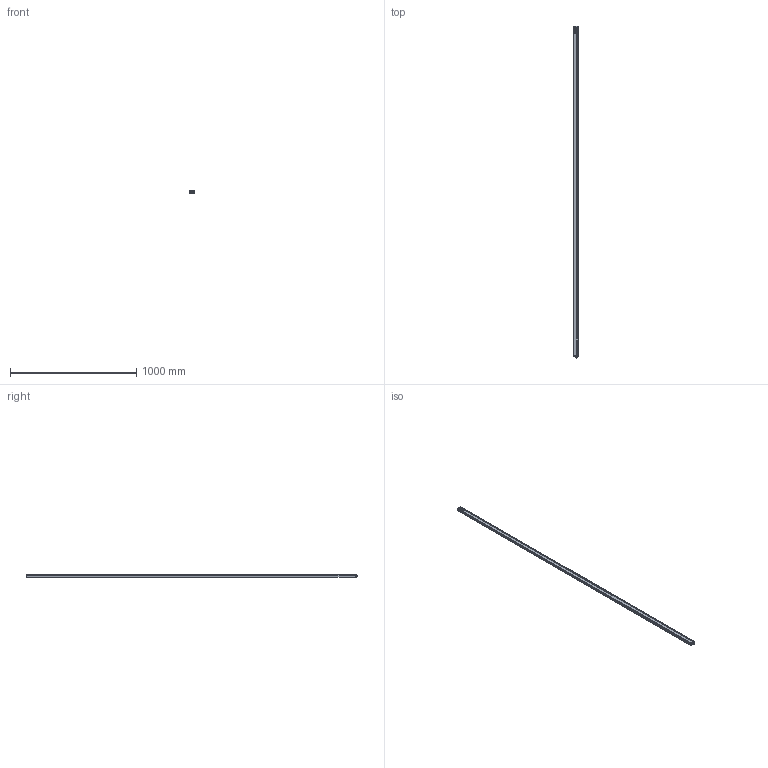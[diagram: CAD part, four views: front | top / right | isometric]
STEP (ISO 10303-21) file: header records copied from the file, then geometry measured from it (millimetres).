
FILE_DESCRIPTION(/* description */ (''),/* implementation_level */ '2;1');
FILE_NAME(/* name */ 'C:\Users\andre\SynologyDrive\Optoscan\Libreria Componenti\00 - Barriere\Polaris sorgente\Barriera Polaris RX\Polaris_2600_RX.stp',/* time_stamp */ '2021-06-04T12:12:10+02:00',/* author */ ('andre'),/* organization */ (''),/* preprocessor_version */ 'ST-DEVELOPER v18',/* originating_system */ 'Autodesk Inventor 2020',/* authorisation */ '');
FILE_SCHEMA (('AUTOMOTIVE_DESIGN { 1 0 10303 214 3 1 1 }'));
Length unit declared in the file: millimetre
Products named in the file (1): Polaris_2600_RX
Bounding box: 40.5 x 2625.3 x 20.75 mm (x, y, z)
Volume: 515679.2 mm3; surface area: 686015.2 mm2
Topology: 1 solids, 1 shells, 700 faces, 1926 edges, 1237 vertices
Faces by surface type: plane 319, cylinder 199, bspline 94, torus 70, sphere 10, cone 8
Full cylindrical faces by diameter (mm): 1 x8, 2.459 x4, 2.5 x4, 3 x4, 3.5 x4, 5.5 x4, 8 x1, 10.5 x2, 11.75 x9, 15.7 x1, 17.5 x1
Entity records: 28472 total; most frequent: CARTESIAN_POINT 10246, ORIENTED_EDGE 3826, DIRECTION 3447, EDGE_CURVE 1913, VERTEX_POINT 1237, AXIS2_PLACEMENT_3D 1211, LINE 1025, VECTOR 1025
